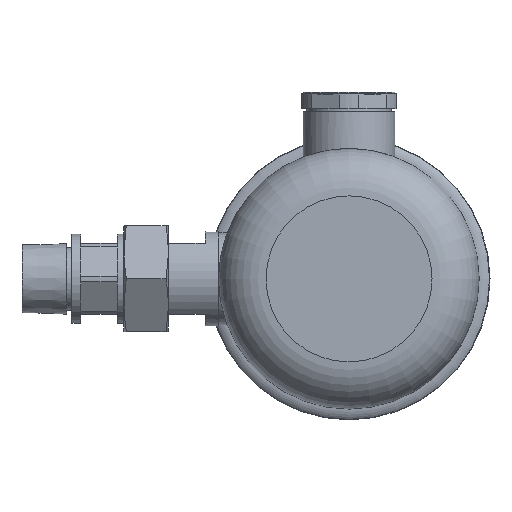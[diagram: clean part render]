
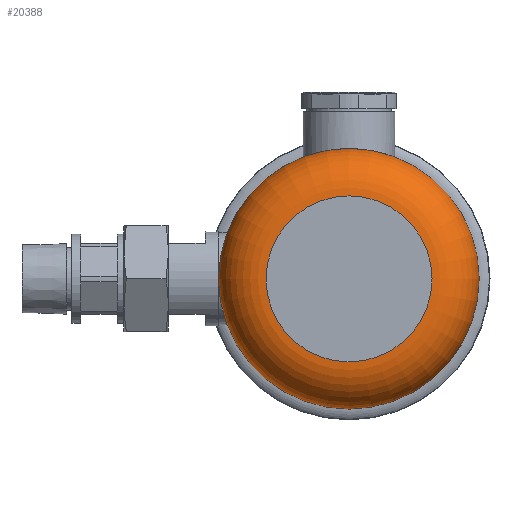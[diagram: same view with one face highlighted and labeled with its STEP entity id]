
A CAD part, front view. The second image highlights one B-rep face of the part: STEP entity #20388.
In plain terms, the highlighted toroidal (fillet/blend) face has major radius 31.65 mm and minor radius 18 mm.
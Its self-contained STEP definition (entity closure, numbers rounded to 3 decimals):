
#5405=FACE_BOUND('',#7659,.T.);
#5453=TOROIDAL_SURFACE('',#21142,31.65,18.);
#6452=FACE_OUTER_BOUND('',#7658,.T.);
#7658=EDGE_LOOP('',(#18214));
#7659=EDGE_LOOP('',(#18215));
#7838=CIRCLE('',#21143,49.65);
#7839=CIRCLE('',#21144,31.65);
#9739=VERTEX_POINT('',#36541);
#9740=VERTEX_POINT('',#36543);
#12599=EDGE_CURVE('',#9739,#9739,#7838,.T.);
#12600=EDGE_CURVE('',#9740,#9740,#7839,.T.);
#18214=ORIENTED_EDGE('',*,*,#12599,.F.);
#18215=ORIENTED_EDGE('',*,*,#12600,.T.);
#20388=ADVANCED_FACE('',(#6452,#5405),#5453,.T.);
#21142=AXIS2_PLACEMENT_3D('',#36540,#24563,#24564);
#21143=AXIS2_PLACEMENT_3D('',#36542,#24565,#24566);
#21144=AXIS2_PLACEMENT_3D('',#36544,#24567,#24568);
#24563=DIRECTION('center_axis',(0.,1.,0.));
#24564=DIRECTION('ref_axis',(0.,0.,1.));
#24565=DIRECTION('center_axis',(0.,1.,0.));
#24566=DIRECTION('ref_axis',(-1.,0.,0.));
#24567=DIRECTION('center_axis',(0.,1.,0.));
#24568=DIRECTION('ref_axis',(-1.,0.,0.));
#36540=CARTESIAN_POINT('Origin',(0.,18.,0.));
#36541=CARTESIAN_POINT('',(-49.65,18.,0.));
#36542=CARTESIAN_POINT('Origin',(0.,18.,0.));
#36543=CARTESIAN_POINT('',(-31.65,0.,0.));
#36544=CARTESIAN_POINT('Origin',(0.,0.,0.));
